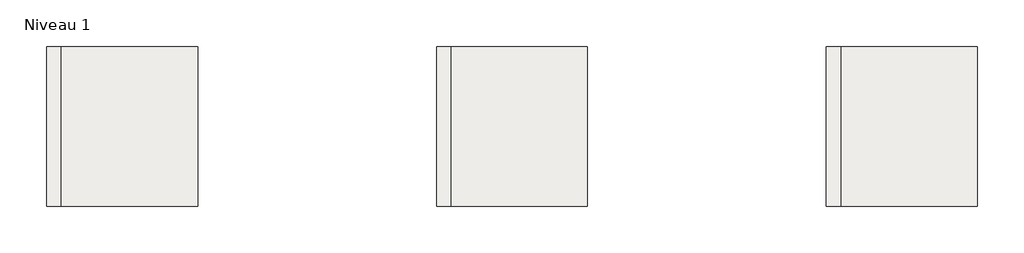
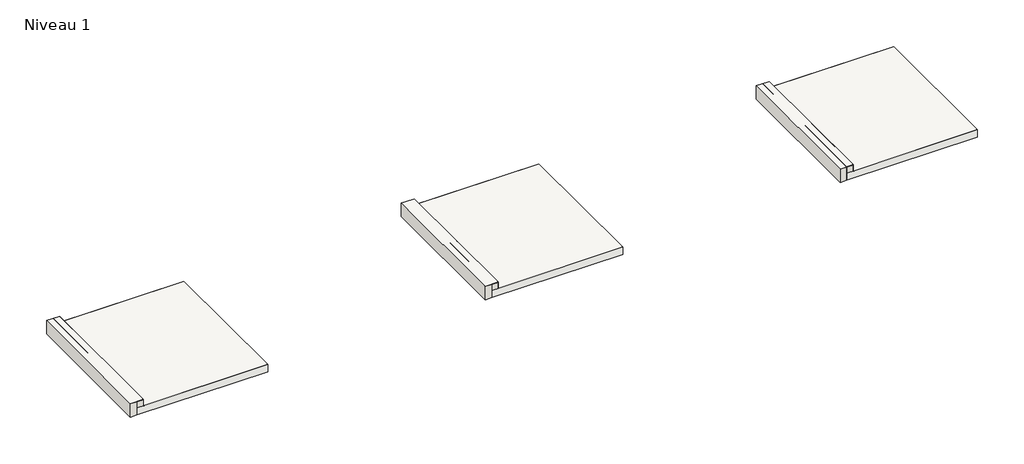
# One storey, part 1 of 3: 15 roofs, 12 walls.
"""IFC4 building model written with IfcOpenShell, lengths in millimetres."""

import ifcopenshell
import ifcopenshell.guid

model = None  # the IFC model being written
_history = None  # IfcOwnerHistory: only IFC2X3 demands one
_inside = {}  # id of a spatial element -> (the spatial element, [elements in it])
_under = {}  # id of a project, library or spatial element -> (it, [spatial elements below it])
_declared = {}  # id of a project -> (the project, [libraries it declares])
_typed = {}  # id of a type object -> (the type object, [elements of that type])
_made_of = {}  # id of a material, layer set ... -> (it, [elements and type objects made of it])


def new_model(schema):
    """Start an empty IFC model of exactly this schema.

    Asked for "IFC4X3", IfcOpenShell would pick the latest addendum, in which some entities
    have other attributes; the version numbers below select the first issue.
    IFC2X3 requires an IfcOwnerHistory on every rooted entity: one is made here for all.
    """
    global model, _history
    if schema == "IFC4X3":
        model = ifcopenshell.file(schema_version=(4, 3, 0, 0))
    else:
        model = ifcopenshell.file(schema=schema)
    _inside.clear()
    _under.clear()
    _declared.clear()
    _typed.clear()
    _made_of.clear()
    _history = None
    if model.schema == "IFC2X3":
        org = make("IfcOrganization", Name="unknown")
        user = make(
            "IfcPersonAndOrganization",
            ThePerson=make("IfcPerson", FamilyName="unknown"),
            TheOrganization=org,
        )
        app = make(
            "IfcApplication",
            ApplicationDeveloper=org,
            Version="unknown",
            ApplicationFullName="unknown",
            ApplicationIdentifier="unknown",
        )
        _history = make(
            "IfcOwnerHistory",
            OwningUser=user,
            OwningApplication=app,
            ChangeAction="ADDED",
            CreationDate=0,
        )
    return model


def make(cls, **values):
    """One entity of the class cls with the attributes given. An attribute that is None is left unset."""
    return model.create_entity(
        cls, **{name: value for name, value in values.items() if value is not None}
    )


def rooted(cls, **values):
    """An entity with a GlobalId (a new one), such as an element, a storey or a relation."""
    return make(cls, GlobalId=ifcopenshell.guid.new(), OwnerHistory=_history, **values)


def si_unit(unit_type, name, prefix=None):
    """IfcSIUnit, for example si_unit("LENGTHUNIT", "METRE", prefix="MILLI")."""
    return make("IfcSIUnit", UnitType=unit_type, Prefix=prefix, Name=name)


def assignment(units):
    """IfcUnitAssignment: the units of a project."""
    return None if units is None else make("IfcUnitAssignment", Units=units)


def point(xyz):
    """IfcCartesianPoint."""
    return None if xyz is None else make("IfcCartesianPoint", Coordinates=xyz)


def direction(xyz):
    """IfcDirection."""
    return None if xyz is None else make("IfcDirection", DirectionRatios=xyz)


def frame(location, z_axis=None, x_axis=None):
    """IfcAxis2Placement3D, a coordinate frame: its origin and axes. An axis left out is left unset."""
    return make(
        "IfcAxis2Placement3D",
        Location=point(location),
        Axis=direction(z_axis),
        RefDirection=direction(x_axis),
    )


def origin():
    """The frame at (0, 0, 0) with its axes left unset."""
    return frame((0.0, 0.0, 0.0))


def place(relative_to, where):
    """IfcLocalPlacement: puts the frame where relative to a parent placement (None: the world)."""
    return make(
        "IfcLocalPlacement", PlacementRelTo=relative_to, RelativePlacement=where
    )


def context(
    kind, dimensions, precision=None, world=None, true_north=None, identifier=None
):
    """IfcGeometricRepresentationContext, for example the 3D "Model" context."""
    return make(
        "IfcGeometricRepresentationContext",
        ContextIdentifier=identifier,
        ContextType=kind,
        CoordinateSpaceDimension=dimensions,
        Precision=precision,
        WorldCoordinateSystem=world,
        TrueNorth=true_north,
    )


def project(units=None, contexts=None):
    """IfcProject with its units and contexts."""
    return rooted(
        "IfcProject",
        Name="project",
        RepresentationContexts=contexts,
        UnitsInContext=assignment(units),
    )


def spatial(cls, under=None, at=None, **own):
    """A site, building, storey or space (cls), placed at a placement, below another one or the project."""
    s = rooted(cls, ObjectPlacement=at, **own)
    if under is not None:
        _under.setdefault(under.id(), (under, []))[1].append(s)
    return s


def polyline(points):
    """IfcPolyline through the points."""
    return make("IfcPolyline", Points=[point(p) for p in points])


def outline(outer, holes=None, kind="AREA"):
    """IfcArbitraryClosedProfileDef: a profile drawn as a closed curve; with holes, ...WithVoids."""
    if holes is None:
        return make("IfcArbitraryClosedProfileDef", ProfileType=kind, OuterCurve=outer)
    return make(
        "IfcArbitraryProfileDefWithVoids",
        ProfileType=kind,
        OuterCurve=outer,
        InnerCurves=holes,
    )


def extrude(swept, where, along, depth):
    """IfcExtrudedAreaSolid: the profile swept, set in the frame where, extruded along a direction by depth."""
    return make(
        "IfcExtrudedAreaSolid",
        SweptArea=swept,
        Position=where,
        ExtrudedDirection=direction(along),
        Depth=depth,
    )


def shape(context_of_items, identifier, shape_type, items):
    """IfcShapeRepresentation: the items that make up one representation, for example the "Body"."""
    return make(
        "IfcShapeRepresentation",
        ContextOfItems=context_of_items,
        RepresentationIdentifier=identifier,
        RepresentationType=shape_type,
        Items=items,
    )


def made_of(thing, what):
    """Note that an element or type object is made of a material, layer set ...; save() writes the relation."""
    if what is not None:
        _made_of.setdefault(what.id(), (what, []))[1].append(thing)
    return thing


def element(
    cls,
    number,
    at=None,
    inside=None,
    cuts=None,
    type_object=None,
    material=None,
    context=None,
    identifier="Body",
    shape_type=None,
    held_by="IfcProductDefinitionShape",
    body=None,
    shapes=None,
    **own,
):
    """One element of the class cls, such as IfcWall. Its Tag is "e" and its number.

    at: its placement. inside: the storey or other place that contains it. cuts: it is an
    opening in that element (IfcRelVoidsElement). A single representation is given by context,
    identifier, shape_type and body (its items); several are given by shapes. held_by: the class
    of the entity that holds the representations. save() writes the other relations.
    """
    e = rooted(cls, Tag="e%d" % number, ObjectPlacement=at, **own)
    if body is not None:
        shapes = [shape(context, identifier, shape_type, body)]
    if shapes is not None:
        e.Representation = make(held_by, Representations=shapes)
    if inside is not None:
        _inside.setdefault(inside.id(), (inside, []))[1].append(e)
    if cuts is not None:
        rooted(
            "IfcRelVoidsElement", RelatingBuildingElement=cuts, RelatedOpeningElement=e
        )
    if type_object is not None:
        _typed.setdefault(type_object.id(), (type_object, []))[1].append(e)
    return made_of(e, material)


def aggregate(whole, parts):
    """IfcRelAggregates: a whole, such as a stair, and the parts it consists of."""
    return rooted("IfcRelAggregates", RelatingObject=whole, RelatedObjects=parts)


def save(model, path):
    """Write the relations noted so far, then the file.

    IfcRelAggregates (storeys below a building ...), IfcRelContainedInSpatialStructure (elements
    in a storey), IfcRelDefinesByType, IfcRelAssociatesMaterial and IfcRelDeclares: one each for
    every whole, place, type object, material and project.
    """
    for whole, parts in _under.values():
        aggregate(whole, parts)
    for where, things in _inside.values():
        rooted(
            "IfcRelContainedInSpatialStructure",
            RelatedElements=things,
            RelatingStructure=where,
        )
    for kind, things in _typed.values():
        rooted("IfcRelDefinesByType", RelatedObjects=things, RelatingType=kind)
    for what, things in _made_of.values():
        rooted("IfcRelAssociatesMaterial", RelatedObjects=things, RelatingMaterial=what)
    for by, libraries in _declared.values():
        rooted("IfcRelDeclares", RelatingContext=by, RelatedDefinitions=libraries)
    model.write(path)


model = new_model("IFC4")

# Units and contexts
model_context = context("Model", 3, world=origin())
ifc_project = project(units=[si_unit("LENGTHUNIT", "METRE", prefix="MILLI")], contexts=[model_context])

# Site, building, storey
site = spatial("IfcSite", under=ifc_project)
building = spatial("IfcBuilding", under=site)
storey = spatial("IfcBuildingStorey", under=building, Name="Niveau 1", Elevation=0.0)

# Roofs
placement = place(None, origin())
element("IfcRoof", 1, ObjectType="Primer d’adhérence FG35", at=placement, inside=storey, context=model_context, shape_type="SweptSolid", body=[
    extrude(outline(polyline([(6837.3553682, 5160.4913189), (6837.3553682, 11874.9528574), (12584.3053682, 11874.9528574), (12584.3053682, 5160.4913189), (6837.3553682, 5160.4913189)])), frame((0.0, 0.0, 135.2), z_axis=(0.0, 0.0, 1.0), x_axis=(1.0, 0.0, 0.0)), (0.0, 0.0, 1.0), 0.8),
])
element("IfcRoof", 2, ObjectType="Membrane RESITRIX SK W Full bond", at=placement, inside=storey, context=model_context, shape_type="SweptSolid", body=[
    extrude(outline(polyline([(6237.3553682, 5160.4913189), (6237.3553682, 11874.9528574), (6840.6553682, 11874.9528574), (6840.6553682, 5160.4913189), (6237.3553682, 5160.4913189)])), frame((0.0, 0.0, 436.0), z_axis=(0.0, 0.0, 1.0), x_axis=(1.0, 0.0, 0.0)), (0.0, 0.0, 1.0), 2.5),
])
element("IfcRoof", 3, ObjectType="Membrane RESITRIX SK EPDM Partial bond", at=placement, inside=storey, context=model_context, shape_type="SweptSolid", body=[
    extrude(outline(polyline([(6837.3553682, 5160.4913189), (6837.3553682, 11874.9528574), (12584.3053682, 11874.9528574), (12584.3053682, 5160.4913189), (6837.3553682, 5160.4913189)])), frame((0.0, 0.0, 136.0), z_axis=(0.0, 0.0, 1.0), x_axis=(1.0, 0.0, 0.0)), (0.0, 0.0, 1.0), 2.5),
])
element("IfcRoof", 4, ObjectType="Primer d’adhérence FG35", at=placement, inside=storey, context=model_context, shape_type="SweptSolid", body=[
    extrude(outline(polyline([(6237.3553682, 5160.4913189), (6237.3553682, 11874.9528574), (6840.6553682, 11874.9528574), (6840.6553682, 5160.4913189), (6237.3553682, 5160.4913189)])), frame((0.0, 0.0, 435.2), z_axis=(0.0, 0.0, 1.0), x_axis=(1.0, 0.0, 0.0)), (0.0, 0.0, 1.0), 0.8),
])
element("IfcRoof", 5, ObjectType="Membrane RESITRIX MB EPDM lestée ou fixée méaniquement", at=placement, inside=storey, context=model_context, shape_type="SweptSolid", body=[
    extrude(outline(polyline([(39627.7553682, 5160.6254592), (39627.7553682, 11875.0869977), (45374.7053682, 11875.0869977), (45374.7053682, 5160.6254592), (39627.7553682, 5160.6254592)])), frame((0.0, 0.0, 135.2), z_axis=(0.0, 0.0, 1.0), x_axis=(1.0, 0.0, 0.0)), (0.0, 0.0, 1.0), 3.1),
])
element("IfcRoof", 6, ObjectType="Membrane RESITRIX SK W Full bond", at=placement, inside=storey, context=model_context, shape_type="SweptSolid", body=[
    extrude(outline(polyline([(39027.7553682, 5160.4913189), (39027.7553682, 11874.9528574), (39631.0553682, 11874.9528574), (39631.0553682, 5160.4913189), (39027.7553682, 5160.4913189)])), frame((0.0, 0.0, 436.0), z_axis=(0.0, 0.0, 1.0), x_axis=(1.0, 0.0, 0.0)), (0.0, 0.0, 1.0), 2.5),
])
element("IfcRoof", 7, ObjectType="Primer d’adhérence FG35", at=placement, inside=storey, context=model_context, shape_type="SweptSolid", body=[
    extrude(outline(polyline([(39027.7553682, 5160.4913189), (39027.7553682, 11874.9528574), (39631.0553682, 11874.9528574), (39631.0553682, 5160.4913189), (39027.7553682, 5160.4913189)])), frame((0.0, 0.0, 435.2), z_axis=(0.0, 0.0, 1.0), x_axis=(1.0, 0.0, 0.0)), (0.0, 0.0, 1.0), 0.8),
])
element("IfcRoof", 8, ObjectType="Lestage (à définir selon client)", at=placement, inside=storey, context=model_context, shape_type="SweptSolid", body=[
    extrude(outline(polyline([(39627.7553682, 5160.6254592), (39627.7553682, 11875.0869977), (45374.7053682, 11875.0869977), (45374.7053682, 5160.6254592), (39627.7553682, 5160.6254592)])), frame((0.0, 0.0, 138.3), z_axis=(0.0, 0.0, 1.0), x_axis=(1.0, 0.0, 0.0)), (0.0, 0.0, 1.0), 0.8),
])
element("IfcRoof", 9, ObjectType="Primer d’adhérence FG35", at=placement, inside=storey, context=model_context, shape_type="SweptSolid", body=[
    extrude(outline(polyline([(23232.5553682, 5160.4913189), (23232.5553682, 11874.9528574), (28979.5053682, 11874.9528574), (28979.5053682, 5160.4913189), (23232.5553682, 5160.4913189)])), frame((0.0, 0.0, 135.2), z_axis=(0.0, 0.0, 1.0), x_axis=(1.0, 0.0, 0.0)), (0.0, 0.0, 1.0), 0.8),
])
element("IfcRoof", 10, ObjectType="Membrane RESITRIX SK W Full bond", at=placement, inside=storey, context=model_context, shape_type="SweptSolid", body=[
    extrude(outline(polyline([(22632.5553682, 5160.4913189), (22632.5553682, 11874.9528574), (23235.8553682, 11874.9528574), (23235.8553682, 5160.4913189), (22632.5553682, 5160.4913189)])), frame((0.0, 0.0, 436.0), z_axis=(0.0, 0.0, 1.0), x_axis=(1.0, 0.0, 0.0)), (0.0, 0.0, 1.0), 2.5),
])
element("IfcRoof", 11, ObjectType="Membrane RESITRIX SK W Full bond", at=placement, inside=storey, context=model_context, shape_type="SweptSolid", body=[
    extrude(outline(polyline([(23232.5553682, 5160.4913189), (23232.5553682, 11874.9528574), (28979.5053682, 11874.9528574), (28979.5053682, 5160.4913189), (23232.5553682, 5160.4913189)])), frame((0.0, 0.0, 136.0), z_axis=(0.0, 0.0, 1.0), x_axis=(1.0, 0.0, 0.0)), (0.0, 0.0, 1.0), 2.5),
])
element("IfcRoof", 12, ObjectType="Primer d’adhérence FG35", at=placement, inside=storey, context=model_context, shape_type="SweptSolid", body=[
    extrude(outline(polyline([(22632.5553682, 5160.4913189), (22632.5553682, 11874.9528574), (23235.8553682, 11874.9528574), (23235.8553682, 5160.4913189), (22632.5553682, 5160.4913189)])), frame((0.0, 0.0, 435.2), z_axis=(0.0, 0.0, 1.0), x_axis=(1.0, 0.0, 0.0)), (0.0, 0.0, 1.0), 0.8),
])
element("IfcRoof", 13, ObjectType="Toit 1", at=placement, inside=storey, context=model_context, shape_type="SweptSolid", body=[
    extrude(outline(polyline([(6537.3553682, 11874.9528574), (12584.3053682, 11874.9528574), (12584.3053682, 5160.4913189), (6537.3553682, 5160.4913189), (6537.3553682, 11874.9528574)])), frame((0.0, 0.0, -215.6), z_axis=(0.0, 0.0, 1.0), x_axis=(1.0, 0.0, 0.0)), (0.0, 0.0, 1.0), 350.8),
])
element("IfcRoof", 14, ObjectType="Toit 1", at=placement, inside=storey, context=model_context, shape_type="SweptSolid", body=[
    extrude(outline(polyline([(39327.7553682, 11875.0869977), (45374.7053682, 11875.0869977), (45374.7053682, 5160.6254592), (39327.7553682, 5160.6254592), (39327.7553682, 11875.0869977)])), frame((0.0, 0.0, -215.6), z_axis=(0.0, 0.0, 1.0), x_axis=(1.0, 0.0, 0.0)), (0.0, 0.0, 1.0), 350.8),
])
element("IfcRoof", 15, ObjectType="Toit 1", at=placement, inside=storey, context=model_context, shape_type="SweptSolid", body=[
    extrude(outline(polyline([(22932.5553682, 11874.9528574), (28979.5053682, 11874.9528574), (28979.5053682, 5160.4913189), (22932.5553682, 5160.4913189), (22932.5553682, 11874.9528574)])), frame((0.0, 0.0, -215.6), z_axis=(0.0, 0.0, 1.0), x_axis=(1.0, 0.0, 0.0)), (0.0, 0.0, 1.0), 350.8),
])

# Walls
element("IfcWall", 16, ObjectType="Membrane RESITRIX SK W EPDM Full bond", at=placement, inside=storey, context=model_context, shape_type="SweptSolid", body=[
    extrude(outline(polyline([(6838.1553682, 5160.4913189), (6838.1553682, 11874.9528574), (6840.6553682, 11874.9528574), (6840.6553682, 5160.4913189), (6838.1553682, 5160.4913189)])), frame((0.0, 0.0, 138.5), z_axis=(0.0, 0.0, 1.0), x_axis=(1.0, 0.0, 0.0)), (0.0, 0.0, 1.0), 296.7),
])
element("IfcWall", 17, ObjectType="Primer d’adhérence FG35", at=placement, inside=storey, context=model_context, shape_type="SweptSolid", body=[
    extrude(outline(polyline([(6837.3553682, 5160.4913189), (6837.3553682, 11874.9528574), (6838.1553682, 11874.9528574), (6838.1553682, 5160.4913189), (6837.3553682, 5160.4913189)])), frame((0.0, 0.0, 138.5), z_axis=(0.0, 0.0, 1.0), x_axis=(1.0, 0.0, 0.0)), (0.0, 0.0, 1.0), 296.7),
])
element("IfcWall", 18, ObjectType="Membrane RESITRIX SK W EPDM Full bond", at=placement, inside=storey, context=model_context, shape_type="SweptSolid", body=[
    extrude(outline(polyline([(39628.5553682, 5160.4913189), (39628.5553682, 11874.9528574), (39631.0553682, 11874.9528574), (39631.0553682, 5160.4913189), (39628.5553682, 5160.4913189)])), frame((0.0, 0.0, 139.1), z_axis=(0.0, 0.0, 1.0), x_axis=(1.0, 0.0, 0.0)), (0.0, 0.0, 1.0), 296.1),
])
element("IfcWall", 19, ObjectType="Primer d’adhérence FG35", at=placement, inside=storey, context=model_context, shape_type="SweptSolid", body=[
    extrude(outline(polyline([(39627.7553682, 5160.4913189), (39627.7553682, 11874.9528574), (39628.5553682, 11874.9528574), (39628.5553682, 5160.4913189), (39627.7553682, 5160.4913189)])), frame((0.0, 0.0, 139.1), z_axis=(0.0, 0.0, 1.0), x_axis=(1.0, 0.0, 0.0)), (0.0, 0.0, 1.0), 296.1),
])
element("IfcWall", 20, ObjectType="Membrane RESITRIX SK W EPDM Full bond", at=placement, inside=storey, context=model_context, shape_type="SweptSolid", body=[
    extrude(outline(polyline([(23233.3553682, 5160.4913189), (23233.3553682, 11874.9528574), (23235.8553682, 11874.9528574), (23235.8553682, 5160.4913189), (23233.3553682, 5160.4913189)])), frame((0.0, 0.0, 138.5), z_axis=(0.0, 0.0, 1.0), x_axis=(1.0, 0.0, 0.0)), (0.0, 0.0, 1.0), 296.7),
])
element("IfcWall", 21, ObjectType="Membrane RESITRIX SK W EPDM collée", at=placement, inside=storey, context=model_context, shape_type="SweptSolid", body=[
    extrude(outline(polyline([(23231.7053682, 5160.4913189), (23231.7053682, 11874.9528574), (23234.2053682, 11874.9528574), (23234.2053682, 5160.4913189), (23231.7053682, 5160.4913189)])), frame((0.0, 0.0, 138.5), z_axis=(0.0, 0.0, 1.0), x_axis=(1.0, 0.0, 0.0)), (0.0, 0.0, 1.0), 296.7),
])
element("IfcWall", 22, ObjectType="Mur 1", at=placement, inside=storey, context=model_context, shape_type="SweptSolid", body=[
    extrude(outline(polyline([(6237.3553682, 5160.4913189), (6237.3553682, 11874.9528574), (6537.3553682, 11874.9528574), (6537.3553682, 5160.4913189), (6237.3553682, 5160.4913189)])), frame((0.0, 0.0, -215.6), z_axis=(0.0, 0.0, 1.0), x_axis=(1.0, 0.0, 0.0)), (0.0, 0.0, 1.0), 650.8),
])
element("IfcWall", 23, ObjectType="Mur 1", at=placement, inside=storey, context=model_context, shape_type="SweptSolid", body=[
    extrude(outline(polyline([(6537.3553682, 5160.4913189), (6537.3553682, 11874.9528574), (6837.3553682, 11874.9528574), (6837.3553682, 5160.4913189), (6537.3553682, 5160.4913189)])), frame((0.0, 0.0, 135.2), z_axis=(0.0, 0.0, 1.0), x_axis=(1.0, 0.0, 0.0)), (0.0, 0.0, 1.0), 300.0),
])
element("IfcWall", 24, ObjectType="Mur 1", at=placement, inside=storey, context=model_context, shape_type="SweptSolid", body=[
    extrude(outline(polyline([(39027.7553682, 5160.6254592), (39027.7553682, 11875.0869977), (39327.7553682, 11875.0869977), (39327.7553682, 5160.6254592), (39027.7553682, 5160.6254592)])), frame((0.0, 0.0, -215.6), z_axis=(0.0, 0.0, 1.0), x_axis=(1.0, 0.0, 0.0)), (0.0, 0.0, 1.0), 650.8),
])
element("IfcWall", 25, ObjectType="Mur 1", at=placement, inside=storey, context=model_context, shape_type="SweptSolid", body=[
    extrude(outline(polyline([(39327.7553682, 5160.6254592), (39327.7553682, 11875.0869977), (39627.7553682, 11875.0869977), (39627.7553682, 5160.6254592), (39327.7553682, 5160.6254592)])), frame((0.0, 0.0, 135.2), z_axis=(0.0, 0.0, 1.0), x_axis=(1.0, 0.0, 0.0)), (0.0, 0.0, 1.0), 300.0),
])
element("IfcWall", 26, ObjectType="Mur 1", at=placement, inside=storey, context=model_context, shape_type="SweptSolid", body=[
    extrude(outline(polyline([(22632.5553682, 5160.4913189), (22632.5553682, 11874.9528574), (22932.5553682, 11874.9528574), (22932.5553682, 5160.4913189), (22632.5553682, 5160.4913189)])), frame((0.0, 0.0, -215.6), z_axis=(0.0, 0.0, 1.0), x_axis=(1.0, 0.0, 0.0)), (0.0, 0.0, 1.0), 650.8),
])
element("IfcWall", 27, ObjectType="Mur 1", at=placement, inside=storey, context=model_context, shape_type="SweptSolid", body=[
    extrude(outline(polyline([(22932.5553682, 5160.4913189), (22932.5553682, 11874.9528574), (23232.5553682, 11874.9528574), (23232.5553682, 5160.4913189), (22932.5553682, 5160.4913189)])), frame((0.0, 0.0, 135.2), z_axis=(0.0, 0.0, 1.0), x_axis=(1.0, 0.0, 0.0)), (0.0, 0.0, 1.0), 300.0),
])

save(model, "model.ifc")
